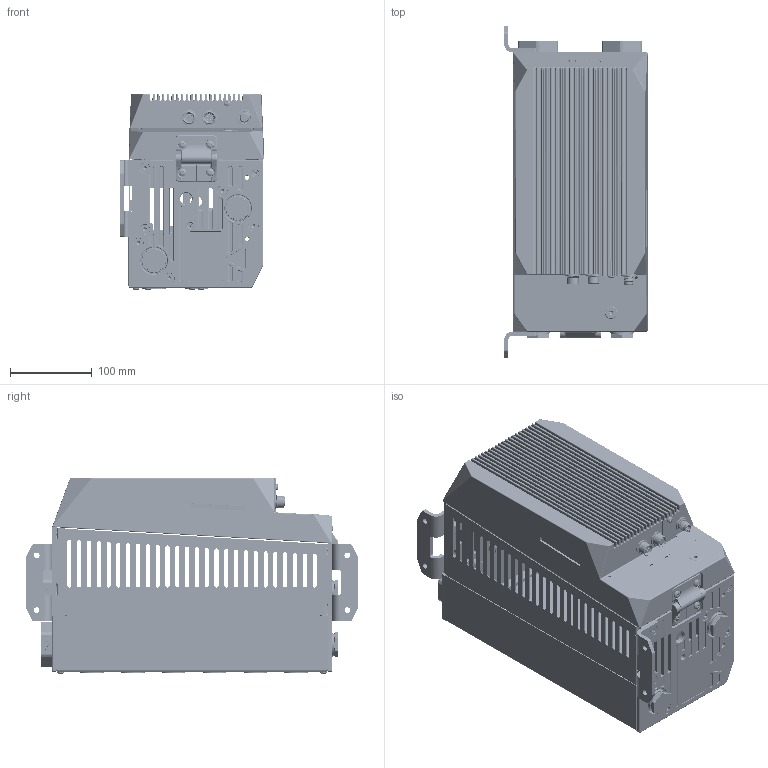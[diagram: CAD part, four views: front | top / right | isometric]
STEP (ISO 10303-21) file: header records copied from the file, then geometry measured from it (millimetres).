
FILE_DESCRIPTION (( 'STEP AP214' ), '1' );
FILE_NAME ('HB-FX1XXL61-6.STEP', '2026-03-02T09:24:27', ( '' ), ( '' ), 'SwSTEP 2.0', 'SolidWorks 2023', '' );
FILE_SCHEMA (( 'AUTOMOTIVE_DESIGN' ));
Length unit declared in the file: millimetre
Products named in the file (21): Kopie von 29734-X^Kopie von K8534-Hülle Teil3_K8534-Hülle kompl_00; Kopie von 29733-X^Kopie von K8534-Hülle Teil2_K8534-Hülle kompl; Kopie von 29793-X^Kopie von K8534-Hülle Teil2_K8534-Hülle kompl_29793-1; KX508-2_3^Kopie von 28706_Kopie von K8534-Hülle Teil2_K8534-Hülle kompl; Kopie von K8534-Hülle Teil2^K8534-Hülle kompl_6-Fach HB-Therm; Kopie (2) von B3061620^Kopie von K8534-Hülle Teil2_K8534-Hülle kompl_M4x12; Kopie von Kopie von 24568^Kopie von K8534-Hülle Teil3_K8534-Hülle kompl_00; Kopie von 29823-X^Kopie von K8534-Hülle Teil3_K8534-Hülle kompl_00; HB-FX1XXL61-6; KX508-2_1^Kopie von 28706_Kopie von K8534-Hülle Teil2_K8534-Hülle kompl; Kopie von 29812-X^Kopie von K8534-Hülle Teil3_K8534-Hülle kompl_01-mit Beschriftung; Kopie von 29730^Kopie von K8534-Hülle Teil3_K8534-Hülle kompl_00; Kopie von 29827^Kopie von K8534-Hülle Teil2_K8534-Hülle kompl; Kopie von 28706^Kopie von K8534-Hülle Teil2_K8534-Hülle kompl_180°; Kopie von 29714^Kopie von K8534-Hülle Teil2_K8534-Hülle kompl; Kopie von K8534-Hülle Teil3^K8534-Hülle kompl_6-FACH-LINKS HB-Therm; Kopie von 28862^Kopie von K8534-Hülle Teil2_K8534-Hülle kompl_M5x12; Kopie von K8534-Hülle LINKS^Kopie von K8534-Hülle Teil3_K8534-Hülle kompl_6-FACH; KX508-2_2^Kopie von 28706_Kopie von K8534-Hülle Teil2_K8534-Hülle kompl; Kopie von Kopie von 29730^Kopie von K8534-Hülle Teil2_K8534-Hülle kompl_00; Kopie von 29818-X^Kopie von K8534-Hülle Teil3_K8534-Hülle kompl_01-mit Beschriftung
Assembly tree (30 placements, depth 4):
  HB-FX1XXL61-6
    Kopie von K8534-Hülle Teil3^K8534-Hülle kompl_6-FACH-LINKS HB-Therm
      Kopie von 29734-X^Kopie von K8534-Hülle Teil3_K8534-Hülle kompl_00  x2
      Kopie von 29730^Kopie von K8534-Hülle Teil3_K8534-Hülle kompl_00  x4
      Kopie von K8534-Hülle LINKS^Kopie von K8534-Hülle Teil3_K8534-Hülle kompl_6-FACH
      Kopie von 29812-X^Kopie von K8534-Hülle Teil3_K8534-Hülle kompl_01-mit Beschriftung
      Kopie von 29818-X^Kopie von K8534-Hülle Teil3_K8534-Hülle kompl_01-mit Beschriftung
      Kopie von 29823-X^Kopie von K8534-Hülle Teil3_K8534-Hülle kompl_00
      Kopie von Kopie von 24568^Kopie von K8534-Hülle Teil3_K8534-Hülle kompl_00  x2
    Kopie von K8534-Hülle Teil2^K8534-Hülle kompl_6-Fach HB-Therm
      Kopie von 29827^Kopie von K8534-Hülle Teil2_K8534-Hülle kompl  x2
      Kopie von 29714^Kopie von K8534-Hülle Teil2_K8534-Hülle kompl
      Kopie von 28862^Kopie von K8534-Hülle Teil2_K8534-Hülle kompl_M5x12  x4
      Kopie von 28706^Kopie von K8534-Hülle Teil2_K8534-Hülle kompl_180°
        KX508-2_1^Kopie von 28706_Kopie von K8534-Hülle Teil2_K8534-Hülle kompl
        KX508-2_2^Kopie von 28706_Kopie von K8534-Hülle Teil2_K8534-Hülle kompl
        KX508-2_3^Kopie von 28706_Kopie von K8534-Hülle Teil2_K8534-Hülle kompl
      Kopie von 29793-X^Kopie von K8534-Hülle Teil2_K8534-Hülle kompl_29793-1
      Kopie von Kopie von 29730^Kopie von K8534-Hülle Teil2_K8534-Hülle kompl_00  x2
      Kopie von 29733-X^Kopie von K8534-Hülle Teil2_K8534-Hülle kompl
      Kopie (2) von B3061620^Kopie von K8534-Hülle Teil2_K8534-Hülle kompl_M4x12
Bounding box: 175.36 x 406 x 239.82 mm (x, y, z)
Volume: 1321838.7 mm3; surface area: 854573.3 mm2
Topology: 98 solids, 99 shells, 7388 faces, 18088 edges, 11008 vertices
Faces by surface type: plane 2476, cylinder 2199, bspline 1030, torus 730, cone 694, sphere 259
Full cylindrical faces by diameter (mm): 2.5 x13, 3.3 x24, 3.6 x1, 4 x12, 4.2 x5, 4.5 x6, 4.6 x1, 4.9 x6, 5 x36, 5.2 x4, 6 x14, 6.6 x12, 6.8 x2, 7 x18, 7.8 x2, 8.3 x1, 8.4 x4, 9.4 x1, 10 x1, 10.2 x1, 10.3 x1, 10.55 x1, 10.8 x2, 12 x26, 12.1 x10, 14.5 x3, 18.4 x2, 19 x15, 20.96 x2, 26.6 x2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
Entity records: 325575 total; most frequent: CARTESIAN_POINT 94776, ORIENTED_EDGE 33134, DIRECTION 31532, EDGE_CURVE 16567, AXIS2_PLACEMENT_3D 12015, VERTEX_POINT 10422, EDGE_LOOP 8315, VECTOR 7502
